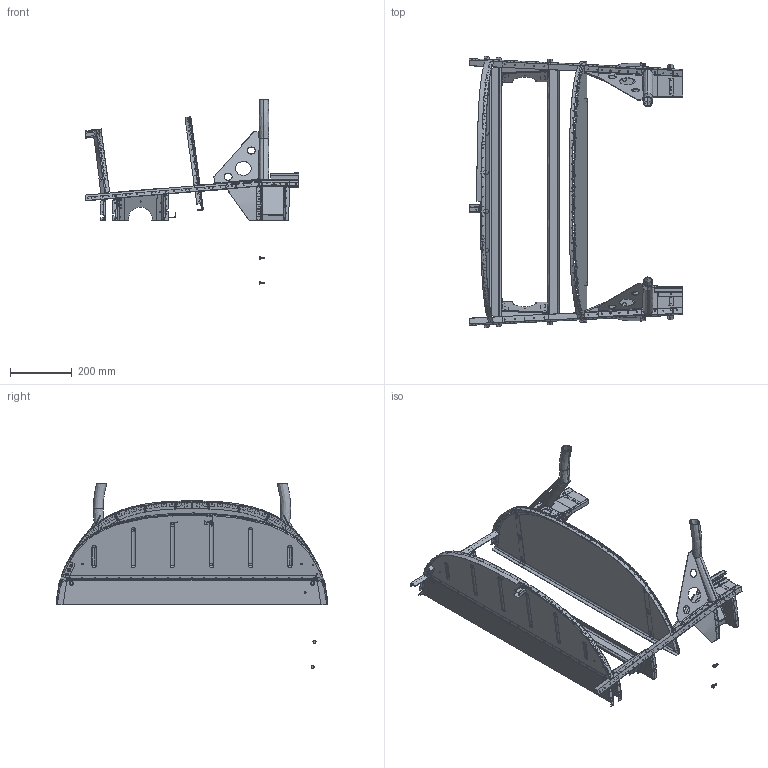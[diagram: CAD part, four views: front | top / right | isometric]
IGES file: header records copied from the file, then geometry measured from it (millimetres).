
Start section: SolidWorks IGES file using analytic representation for surfaces
Global section: file name: Q:\Z other\Website\Download Files\Panels\RV-8 Panel Export.IGS; native system: SolidWorks 2017; preprocessor: SolidWorks 2017; author: rianj; date: 170502.174116; units: inch
Bounding box: 694.11 x 882.88 x 602.23 mm (x, y, z)
Volume: 1578320 mm3; surface area: 2304956.7 mm2
Topology: 111 solids, 111 shells, 5989 faces, 16198 edges, 10469 vertices
Faces by surface type: revolution 3655, plane 1800, bspline 534
